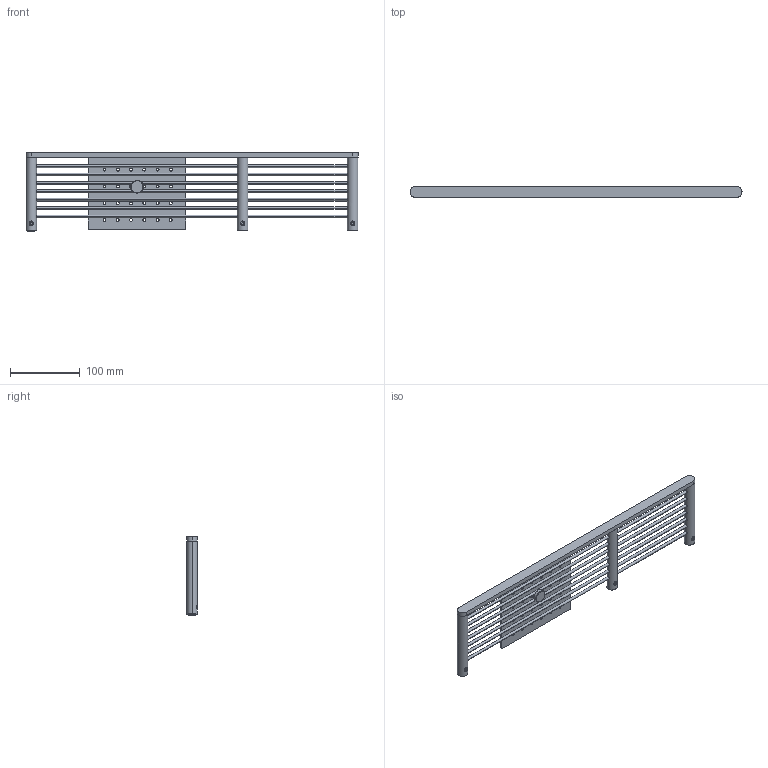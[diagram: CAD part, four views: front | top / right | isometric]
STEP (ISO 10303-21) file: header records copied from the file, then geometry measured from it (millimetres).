
FILE_DESCRIPTION (( 'STEP AP203' ), '1' );
FILE_NAME ('33060E-00-00.STEP', '2025-09-19T02:16:49', ( '' ), ( '' ), 'SwSTEP 2.0', 'SolidWorks 2015', '' );
FILE_SCHEMA (( 'CONFIG_CONTROL_DESIGN' ));
Length unit declared in the file: millimetre
Products named in the file (1): 33060E-00-00
Bounding box: 475.2 x 15.2 x 112.4 mm (x, y, z)
Surface area: 118181.3 mm2 (no closed solid volume)
Topology: 0 solids, 23 shells, 189 faces, 670 edges, 442 vertices
Faces by surface type: cylinder 121, plane 40, cone 28
Entity records: 10997 total; most frequent: CARTESIAN_POINT 5178, DIRECTION 1180, ORIENTED_EDGE 1122, EDGE_CURVE 670, AXIS2_PLACEMENT_3D 452, VERTEX_POINT 442, VECTOR 276, LINE 276
